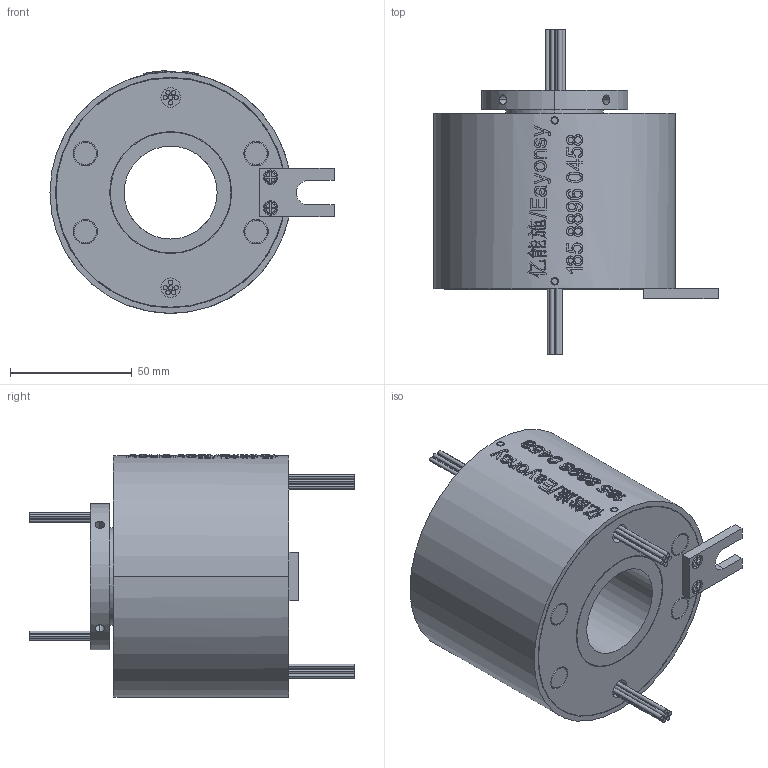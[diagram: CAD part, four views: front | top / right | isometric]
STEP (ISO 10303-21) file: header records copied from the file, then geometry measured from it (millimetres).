
FILE_DESCRIPTION(/* description */ (''),/* implementation_level */ '2;1');
FILE_NAME(/* name */ 'HD3899-1210.stp',/* time_stamp */ '2025-01-19T09:45:18+08:00',/* author */ (''),/* organization */ (''),/* preprocessor_version */ 'ST-DEVELOPER v16.7',/* originating_system */ 'SIEMENS PLM Software NX 12.0',/* authorisation */ '');
FILE_SCHEMA (('AUTOMOTIVE_DESIGN { 1 0 10303 214 3 1 1 1 }'));
Length unit declared in the file: millimetre
Products named in the file (1): HX05089CE4B9b9i8
Bounding box: 116.5 x 133.5 x 99.47 mm (x, y, z)
Volume: 487544.2 mm3; surface area: 61456.5 mm2
Topology: 1 solids, 1 shells, 631 faces, 1528 edges, 1003 vertices
Faces by surface type: plane 304, cylinder 165, extrusion 93, torus 40, bspline 29
Entity records: 36224 total; most frequent: CARTESIAN_POINT 22328, ORIENTED_EDGE 3032, DIRECTION 2447, EDGE_CURVE 1516, VERTEX_POINT 1003, AXIS2_PLACEMENT_3D 990, EDGE_LOOP 767, B_SPLINE_CURVE_WITH_KNOTS 755
